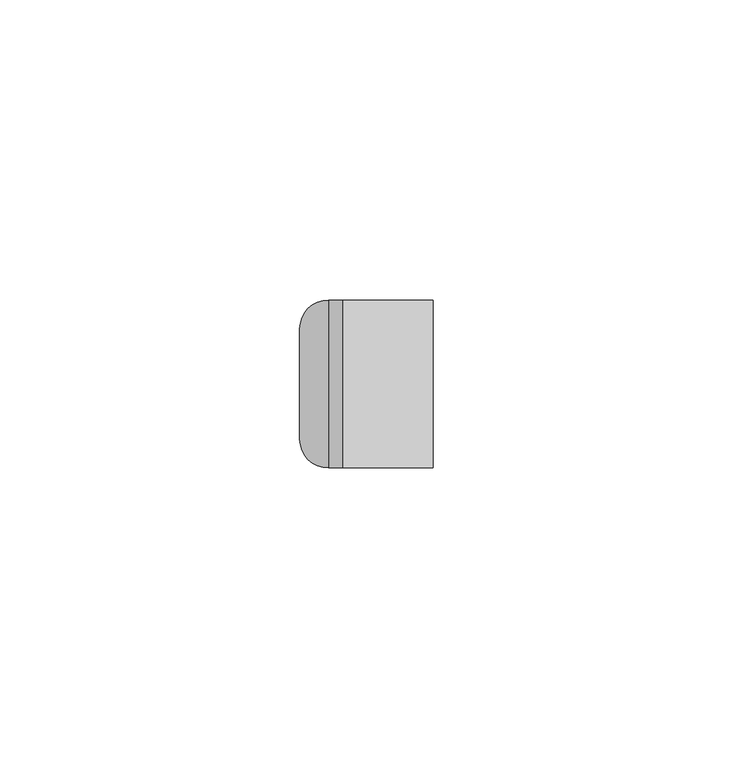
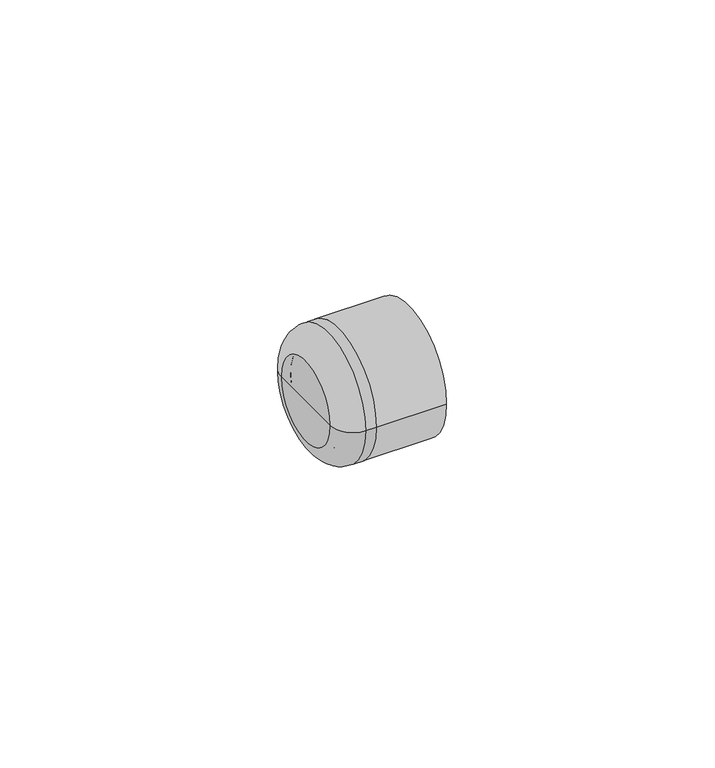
"""IFC4 building model written with IfcOpenShell, lengths in millimetres: pipe fitting geometry, 09_Заглушка : Белый цвет."""

from ifc_helpers import new_model, si_unit, point, frame, origin, place, context, project, spatial, polyline, circle_curve, ellipse_curve, trimmed, source, transform, mapped, element, save
from ifc_brep_helpers import plane_surface, cylinder_surface, revolved_surface, advanced_brep


def pipe_fitting_1e9bfa45(model_context):
    return source(origin(), model_context, "Body", "AdvancedBrep", [
        advanced_brep(
        [(15.0, -14.0, 0.0), (15.0, 14.0, 0.0), (15.0, 10.0, 0.0), (15.0, -10.0, 0.0), (0.0, -14.0, 0.0), (0.0, 14.0, 0.0), (0.0, 10.0, 0.0), (0.0, -10.0, 0.0), (-7.23, -9.1721604, 0.0), (-7.23, 9.1721604, 0.0), (-2.4021604, 14.0, 0.0), (-2.4021604, -14.0, 0.0), (-7.23, 0.0, 0.0), (-5.23, -8.63, 0.0), (-5.23, 8.63, 0.0), (-5.23, 0.0, 0.0), (-3.86, -10.0, 0.0), (-3.86, 10.0, 0.0)],
        [
            (0, 1, circle_curve(frame((15.0, 0.0, 0.0), z_axis=(1.0, 0.0, 0.0), x_axis=(0.0, 1.0, 0.0)), 14.0)),
            (1, 0, circle_curve(frame((15.0, 0.0, 0.0), z_axis=(1.0, 0.0, 0.0), x_axis=(0.0, 1.0, 0.0)), 14.0)),
            (2, 3, circle_curve(frame((15.0, 0.0, 0.0), z_axis=(-1.0, 0.0, 0.0), x_axis=(0.0, 1.0, 0.0)), 10.0)),
            (3, 2, circle_curve(frame((15.0, 0.0, 0.0), z_axis=(-1.0, 0.0, 0.0), x_axis=(0.0, 1.0, 0.0)), 10.0)),
            (0, 4),
            (4, 5, circle_curve(frame((0.0, 0.0, 0.0), z_axis=(1.0, 0.0, 0.0), x_axis=(0.0, 1.0, 0.0)), 14.0)),
            (5, 1),
            (5, 4, circle_curve(frame((0.0, 0.0, 0.0), z_axis=(1.0, 0.0, 0.0), x_axis=(0.0, 1.0, 0.0)), 14.0)),
            (2, 6),
            (6, 7, circle_curve(frame((0.0, 0.0, 0.0), z_axis=(-1.0, 0.0, 0.0), x_axis=(0.0, 1.0, 0.0)), 10.0)),
            (7, 3),
            (7, 6, circle_curve(frame((0.0, 0.0, 0.0), z_axis=(-1.0, 0.0, 0.0), x_axis=(0.0, 1.0, 0.0)), 10.0)),
            (8, 9, circle_curve(frame((-7.23, 0.0, 0.0), z_axis=(1.0, 0.0, 0.0), x_axis=(0.0, 1.0, 0.0)), 9.1721604)),
            (9, 10, circle_curve(frame((-2.4021604, 9.1721604, 0.0), z_axis=(0.0, 0.0, -1.0), x_axis=(1.0, 0.0, 0.0)), 4.8278396)),
            (10, 11, circle_curve(frame((-2.4021604, 0.0, 0.0), z_axis=(-1.0, 0.0, 0.0), x_axis=(0.0, 1.0, 0.0)), 14.0)),
            (11, 8, circle_curve(frame((-2.4021604, -9.1721604, 0.0), z_axis=(0.0, 0.0, -1.0), x_axis=(1.0, 0.0, 0.0)), 4.8278396)),
            (9, 8, circle_curve(frame((-7.23, 0.0, 0.0), z_axis=(1.0, 0.0, 0.0), x_axis=(0.0, 1.0, 0.0)), 9.1721604)),
            (11, 10, circle_curve(frame((-2.4021604, 0.0, 0.0), z_axis=(-1.0, 0.0, 0.0), x_axis=(0.0, 1.0, 0.0)), 14.0)),
            (8, 12),
            (12, 9),
            (13, 14, circle_curve(frame((-5.23, 0.0, 0.0), z_axis=(1.0, 0.0, 0.0), x_axis=(0.0, 1.0, 0.0)), 8.63)),
            (14, 15),
            (15, 13),
            (14, 13, circle_curve(frame((-5.23, 0.0, 0.0), z_axis=(1.0, 0.0, 0.0), x_axis=(0.0, 1.0, 0.0)), 8.63)),
            (13, 16, circle_curve(frame((-3.86, -8.63, 0.0), z_axis=(0.0, 0.0, 1.0), x_axis=(1.0, 0.0, 0.0)), 1.37)),
            (16, 17, circle_curve(frame((-3.86, 0.0, 0.0), z_axis=(1.0, 0.0, 0.0), x_axis=(0.0, 1.0, 0.0)), 10.0)),
            (17, 14, circle_curve(frame((-3.86, 8.63, 0.0), z_axis=(0.0, 0.0, 1.0), x_axis=(1.0, 0.0, 0.0)), 1.37)),
            (17, 16, circle_curve(frame((-3.86, 0.0, 0.0), z_axis=(1.0, 0.0, 0.0), x_axis=(0.0, 1.0, 0.0)), 10.0)),
            (16, 7),
            (6, 17),
            (10, 5),
            (4, 11),
        ],
        [
            plane_surface(frame((15.0, 14.0, 0.0), z_axis=(1.0, 0.0, 0.0), x_axis=(0.0, 0.0, 1.0))),
            cylinder_surface(frame((0.0, 0.0, 0.0), z_axis=(1.0, 0.0, 0.0), x_axis=(0.0, 1.0, 0.0)), 14.0),
            revolved_surface(polyline([(15.0, 10.0, 0.0), (0.0, 10.0, 0.0)]), (0.0, 0.0, 0.0), (1.0, 0.0, 0.0)),
            revolved_surface(trimmed(ellipse_curve(frame((-2.4021604, 9.1721604, 0.0), z_axis=(0.0, 0.0, 1.0), x_axis=(1.0, 0.0, 0.0)), 4.8278396, 4.8278396), [point((-2.4021604, 14.0, 0.0))], [point((-7.23, 9.1721604, 0.0))], True, "CARTESIAN"), (-7.23, 0.0, 0.0), (-1.0, 0.0, 0.0)),
            plane_surface(frame((-7.23, 0.0, 0.0), z_axis=(-1.0, 0.0, 0.0), x_axis=(0.0, 1.0, 0.0))),
            plane_surface(frame((-5.23, 0.0, 0.0), z_axis=(1.0, 0.0, 0.0), x_axis=(0.0, 1.0, 0.0))),
            revolved_surface(trimmed(ellipse_curve(frame((-3.86, 8.63, 0.0), z_axis=(0.0, 0.0, -1.0), x_axis=(1.0, 0.0, 0.0)), 1.37, 1.37), [point((-5.23, 8.63, 0.0))], [point((-3.86, 10.0, 0.0))], True, "CARTESIAN"), (-7.23, 0.0, 0.0), (-1.0, 0.0, 0.0)),
            revolved_surface(polyline([(-3.86, 10.0, 0.0), (0.0, 10.0, 0.0)]), (-7.23, 0.0, 0.0), (-1.0, 0.0, 0.0)),
            cylinder_surface(frame((-7.23, 0.0, 0.0), z_axis=(-1.0, 0.0, 0.0), x_axis=(0.0, 1.0, 0.0)), 14.0),
        ],
        [
            (0, [[1, 2], [3, 4]]),
            (1, [[-1, 5, 6, 7]]),
            (1, [[-2, -7, 8, -5]]),
            (2, [[9, 10, 11, -3]]),
            (2, [[-9, -4, -11, 12]]),
            (3, [[13, 14, 15, 16]]),
            (3, [[-14, 17, -16, 18]]),
            (4, [[-13, 19, 20]]),
            (4, [[-17, -20, -19]]),
            (5, [[21, 22, 23]]),
            (5, [[-22, 24, -23]]),
            (6, [[-21, 25, 26, 27]]),
            (6, [[-24, -27, 28, -25]]),
            (7, [[-26, 29, -10, 30]]),
            (7, [[-28, -30, -12, -29]]),
            (8, [[-15, 31, -6, 32]]),
            (8, [[-18, -32, -8, -31]]),
        ],
    ),
    ])


if __name__ == "__main__":
    model = new_model("IFC4")
    model_context = context("Model", 3, world=origin())
    ifc_project = project(units=[si_unit("LENGTHUNIT", "METRE", prefix="MILLI")], contexts=[model_context])
    site = spatial("IfcSite", under=ifc_project)
    building = spatial("IfcBuilding", under=site)
    placement = place(None, origin())
    pipe_fitting_shape = pipe_fitting_1e9bfa45(model_context)
    element("IfcPipeFitting", 1, ObjectType="09_Заглушка : Белый цвет", at=placement, inside=building, context=model_context, shape_type="MappedRepresentation", body=[
        mapped(pipe_fitting_shape, transform((0.0, 0.0, 0.0), x_axis=(1.0, 0.0, 0.0), y_axis=(0.0, 1.0, 0.0), z_axis=(0.0, 0.0, 1.0))),
    ])
    save(model, "model.ifc")
